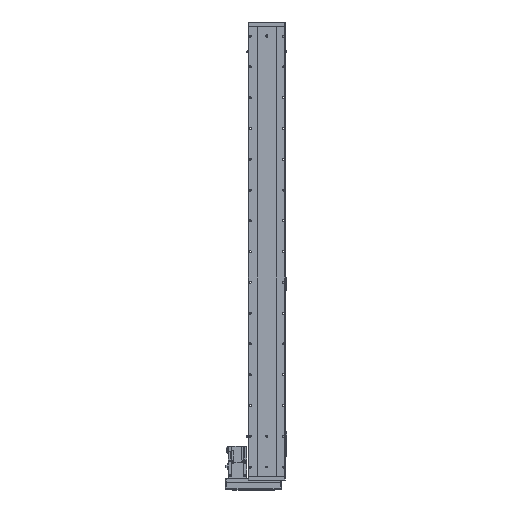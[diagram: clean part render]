
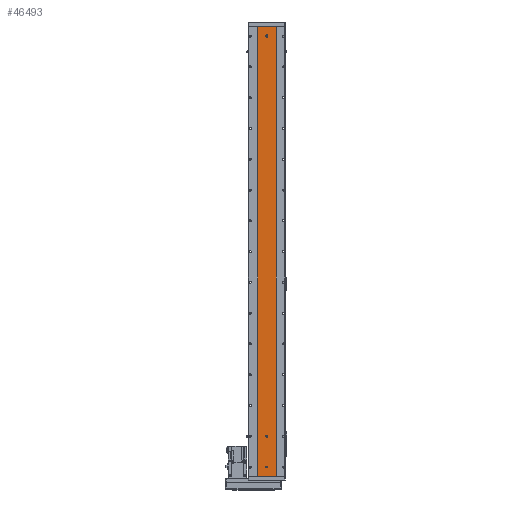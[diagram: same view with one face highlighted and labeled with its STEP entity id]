
A CAD part, front view. The second image highlights one B-rep face of the part: STEP entity #46493.
In plain terms, the highlighted planar face has unit normal (0, -1, 0).
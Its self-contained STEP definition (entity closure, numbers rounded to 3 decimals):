
#225 = CARTESIAN_POINT ( 'NONE',  ( -30., 1., 1461. ) ) ;
#404 = CARTESIAN_POINT ( 'NONE',  ( -30., 1., 1461. ) ) ;
#1662 = DIRECTION ( 'NONE',  ( 0., -1., 0. ) ) ;
#2073 = DIRECTION ( 'NONE',  ( 0., -1., 0. ) ) ;
#2115 = EDGE_CURVE ( 'NONE', #21011, #23136, #2305, .T. ) ;
#2305 = CIRCLE ( 'NONE', #20927, 3. ) ;
#3053 = DIRECTION ( 'NONE',  ( 0., 0., -1. ) ) ;
#3453 = DIRECTION ( 'NONE',  ( 0., -1., 0. ) ) ;
#3694 = DIRECTION ( 'NONE',  ( 0., -1., 0. ) ) ;
#4648 = DIRECTION ( 'NONE',  ( 0., -1., 0. ) ) ;
#5424 = DIRECTION ( 'NONE',  ( 0., 0., 1. ) ) ;
#5788 = EDGE_LOOP ( 'NONE', ( #60261, #22496 ) ) ;
#5993 = DIRECTION ( 'NONE',  ( 0., -1., 0. ) ) ;
#6446 = FACE_BOUND ( 'NONE', #47685, .T. ) ;
#6484 = LINE ( 'NONE', #32826, #42302 ) ;
#8022 = ORIENTED_EDGE ( 'NONE', *, *, #23019, .F. ) ;
#8793 = EDGE_CURVE ( 'NONE', #40193, #15353, #31309, .T. ) ;
#8811 = ORIENTED_EDGE ( 'NONE', *, *, #24342, .F. ) ;
#8904 = CARTESIAN_POINT ( 'NONE',  ( 30., 1., 0. ) ) ;
#9288 = DIRECTION ( 'NONE',  ( 0., 1., 0. ) ) ;
#9523 = AXIS2_PLACEMENT_3D ( 'NONE', #19094, #9288, #14410 ) ;
#9653 = CARTESIAN_POINT ( 'NONE',  ( 3., 1., 1431. ) ) ;
#9867 = ORIENTED_EDGE ( 'NONE', *, *, #62162, .F. ) ;
#10179 = DIRECTION ( 'NONE',  ( 0., 0., -1. ) ) ;
#10370 = CARTESIAN_POINT ( 'NONE',  ( 0., 1., 30. ) ) ;
#11286 = AXIS2_PLACEMENT_3D ( 'NONE', #23760, #28666, #42561 ) ;
#12266 = VERTEX_POINT ( 'NONE', #35105 ) ;
#12727 = CARTESIAN_POINT ( 'NONE',  ( 30., 1., 1461. ) ) ;
#12754 = VERTEX_POINT ( 'NONE', #46378 ) ;
#12827 = CARTESIAN_POINT ( 'NONE',  ( 0., 1., 133. ) ) ;
#14105 = CARTESIAN_POINT ( 'NONE',  ( 0., 1., 33. ) ) ;
#14410 = DIRECTION ( 'NONE',  ( 0., 0., 1. ) ) ;
#14445 = VERTEX_POINT ( 'NONE', #9653 ) ;
#14593 = LINE ( 'NONE', #47578, #16106 ) ;
#15353 = VERTEX_POINT ( 'NONE', #30972 ) ;
#15354 = DIRECTION ( 'NONE',  ( 0., 0., -1. ) ) ;
#16099 = DIRECTION ( 'NONE',  ( 0., 0., -1. ) ) ;
#16106 = VECTOR ( 'NONE', #32420, 1000. ) ;
#19061 = CIRCLE ( 'NONE', #19242, 3. ) ;
#19094 = CARTESIAN_POINT ( 'NONE',  ( -30., 1., 1461. ) ) ;
#19173 = VECTOR ( 'NONE', #29086, 1000. ) ;
#19242 = AXIS2_PLACEMENT_3D ( 'NONE', #27525, #3694, #27730 ) ;
#19386 = FACE_OUTER_BOUND ( 'NONE', #38733, .T. ) ;
#20927 = AXIS2_PLACEMENT_3D ( 'NONE', #10370, #1662, #16099 ) ;
#21011 = VERTEX_POINT ( 'NONE', #47557 ) ;
#22496 = ORIENTED_EDGE ( 'NONE', *, *, #8793, .F. ) ;
#23019 = EDGE_CURVE ( 'NONE', #23136, #21011, #19061, .T. ) ;
#23033 = ORIENTED_EDGE ( 'NONE', *, *, #59636, .T. ) ;
#23136 = VERTEX_POINT ( 'NONE', #14105 ) ;
#23541 = PLANE ( 'NONE',  #9523 ) ;
#23760 = CARTESIAN_POINT ( 'NONE',  ( 0., 1., 1431. ) ) ;
#24342 = EDGE_CURVE ( 'NONE', #30802, #12754, #57431, .T. ) ;
#24445 = ORIENTED_EDGE ( 'NONE', *, *, #48045, .F. ) ;
#25496 = VECTOR ( 'NONE', #10179, 1000. ) ;
#26916 = ORIENTED_EDGE ( 'NONE', *, *, #58987, .F. ) ;
#27218 = CARTESIAN_POINT ( 'NONE',  ( -3., 1., 1431. ) ) ;
#27525 = CARTESIAN_POINT ( 'NONE',  ( 0., 1., 30. ) ) ;
#27730 = DIRECTION ( 'NONE',  ( 0., 0., -1. ) ) ;
#27927 = EDGE_LOOP ( 'NONE', ( #24445, #49850, #8811, #9867, #51180 ) ) ;
#28432 = CIRCLE ( 'NONE', #52170, 3. ) ;
#28666 = DIRECTION ( 'NONE',  ( 0., -1., 0. ) ) ;
#29086 = DIRECTION ( 'NONE',  ( 1., 0., 0. ) ) ;
#30289 = CARTESIAN_POINT ( 'NONE',  ( 3., 1., 1429. ) ) ;
#30802 = VERTEX_POINT ( 'NONE', #53595 ) ;
#30972 = CARTESIAN_POINT ( 'NONE',  ( 0., 1., 127. ) ) ;
#31309 = CIRCLE ( 'NONE', #62810, 3. ) ;
#31591 = CARTESIAN_POINT ( 'NONE',  ( -30., 1., 1461. ) ) ;
#31964 = CARTESIAN_POINT ( 'NONE',  ( 0., 1., 1429. ) ) ;
#32324 = FACE_BOUND ( 'NONE', #5788, .T. ) ;
#32420 = DIRECTION ( 'NONE',  ( 0., 0., -1. ) ) ;
#32826 = CARTESIAN_POINT ( 'NONE',  ( -3., 1., 1429. ) ) ;
#33027 = DIRECTION ( 'NONE',  ( 0., 0., -1. ) ) ;
#33142 = CARTESIAN_POINT ( 'NONE',  ( 0., 1., 1429. ) ) ;
#34385 = EDGE_CURVE ( 'NONE', #44021, #55478, #38460, .T. ) ;
#35105 = CARTESIAN_POINT ( 'NONE',  ( 3., 1., 1429. ) ) ;
#35156 = VECTOR ( 'NONE', #5424, 1000. ) ;
#38460 = LINE ( 'NONE', #225, #25496 ) ;
#38503 = DIRECTION ( 'NONE',  ( 1., 0., 0. ) ) ;
#38704 = DIRECTION ( 'NONE',  ( 0., 0., -1. ) ) ;
#38733 = EDGE_LOOP ( 'NONE', ( #23033, #26916, #42919, #62815 ) ) ;
#39004 = EDGE_CURVE ( 'NONE', #14445, #55930, #63165, .T. ) ;
#39607 = CARTESIAN_POINT ( 'NONE',  ( 0., 1., 130. ) ) ;
#40136 = LINE ( 'NONE', #59420, #57698 ) ;
#40193 = VERTEX_POINT ( 'NONE', #12827 ) ;
#42302 = VECTOR ( 'NONE', #33027, 1000. ) ;
#42561 = DIRECTION ( 'NONE',  ( 0., 0., -1. ) ) ;
#42919 = ORIENTED_EDGE ( 'NONE', *, *, #58628, .F. ) ;
#43618 = LINE ( 'NONE', #30289, #35156 ) ;
#44021 = VERTEX_POINT ( 'NONE', #31591 ) ;
#45905 = DIRECTION ( 'NONE',  ( 0., 0., -1. ) ) ;
#46378 = CARTESIAN_POINT ( 'NONE',  ( 0., 1., 1426. ) ) ;
#46493 = ADVANCED_FACE ( 'NONE', ( #57532, #32324, #6446, #19386 ), #23541, .F. ) ;
#47557 = CARTESIAN_POINT ( 'NONE',  ( 0., 1., 27. ) ) ;
#47578 = CARTESIAN_POINT ( 'NONE',  ( 30., 1., 1461. ) ) ;
#47685 = EDGE_LOOP ( 'NONE', ( #62792, #8022 ) ) ;
#48045 = EDGE_CURVE ( 'NONE', #12266, #14445, #43618, .T. ) ;
#49850 = ORIENTED_EDGE ( 'NONE', *, *, #57104, .F. ) ;
#51180 = ORIENTED_EDGE ( 'NONE', *, *, #39004, .F. ) ;
#51469 = VERTEX_POINT ( 'NONE', #12727 ) ;
#52170 = AXIS2_PLACEMENT_3D ( 'NONE', #33142, #4648, #38704 ) ;
#53595 = CARTESIAN_POINT ( 'NONE',  ( -3., 1., 1429. ) ) ;
#53711 = CIRCLE ( 'NONE', #60099, 3. ) ;
#55478 = VERTEX_POINT ( 'NONE', #56712 ) ;
#55930 = VERTEX_POINT ( 'NONE', #27218 ) ;
#56712 = CARTESIAN_POINT ( 'NONE',  ( -30., 1., 0. ) ) ;
#57104 = EDGE_CURVE ( 'NONE', #12754, #12266, #28432, .T. ) ;
#57168 = VERTEX_POINT ( 'NONE', #8904 ) ;
#57431 = CIRCLE ( 'NONE', #58542, 3. ) ;
#57532 = FACE_BOUND ( 'NONE', #27927, .T. ) ;
#57698 = VECTOR ( 'NONE', #38503, 1000. ) ;
#58542 = AXIS2_PLACEMENT_3D ( 'NONE', #31964, #3453, #3053 ) ;
#58628 = EDGE_CURVE ( 'NONE', #44021, #51469, #61094, .T. ) ;
#58987 = EDGE_CURVE ( 'NONE', #51469, #57168, #14593, .T. ) ;
#59420 = CARTESIAN_POINT ( 'NONE',  ( -30., 1., 0. ) ) ;
#59636 = EDGE_CURVE ( 'NONE', #55478, #57168, #40136, .T. ) ;
#60099 = AXIS2_PLACEMENT_3D ( 'NONE', #39607, #5993, #15354 ) ;
#60199 = CARTESIAN_POINT ( 'NONE',  ( 0., 1., 130. ) ) ;
#60261 = ORIENTED_EDGE ( 'NONE', *, *, #62333, .F. ) ;
#61094 = LINE ( 'NONE', #404, #19173 ) ;
#62162 = EDGE_CURVE ( 'NONE', #55930, #30802, #6484, .T. ) ;
#62333 = EDGE_CURVE ( 'NONE', #15353, #40193, #53711, .T. ) ;
#62792 = ORIENTED_EDGE ( 'NONE', *, *, #2115, .F. ) ;
#62810 = AXIS2_PLACEMENT_3D ( 'NONE', #60199, #2073, #45905 ) ;
#62815 = ORIENTED_EDGE ( 'NONE', *, *, #34385, .T. ) ;
#63165 = CIRCLE ( 'NONE', #11286, 3. ) ;
